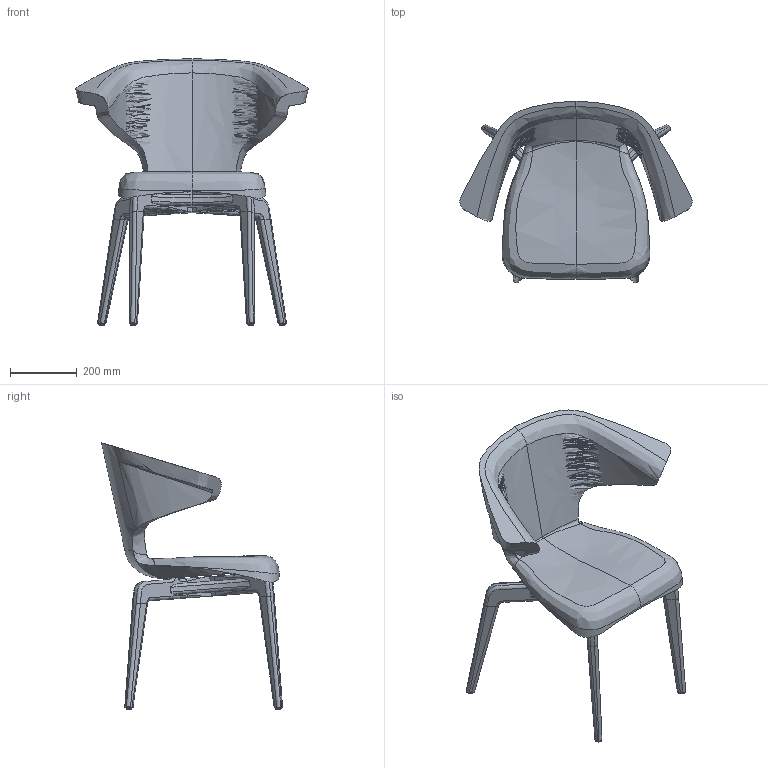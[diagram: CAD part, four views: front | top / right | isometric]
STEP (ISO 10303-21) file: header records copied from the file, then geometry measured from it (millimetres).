
FILE_DESCRIPTION(/* description */ (''),/* implementation_level */ '2;1');
FILE_NAME(/* name */ 'SH_Munich-Armchair_3D_JS_20231016',/* time_stamp */ '2023-10-16T16:06:41+02:00',/* author */ (''),/* organization */ (''),/* preprocessor_version */ 'ST-DEVELOPER v16.5',/* originating_system */ 'Rhino 7.33',/* authorisation */ '');
FILE_SCHEMA (('CONFIG_CONTROL_DESIGN'));
Length unit declared in the file: millimetre
Products named in the file (1): Document
Bounding box: 697.95 x 543.6 x 799.95 mm (x, y, z)
Surface area: 1308108.4 mm2 (no closed solid volume)
Topology: 0 solids, 2 shells, 267 faces, 727 edges, 436 vertices
Faces by surface type: bspline 133, plane 70, cylinder 64
Entity records: 21030 total; most frequent: CARTESIAN_POINT 16862, ORIENTED_EDGE 1386, EDGE_CURVE 711, VERTEX_POINT 436, B_SPLINE_CURVE_WITH_KNOTS 293, EDGE_LOOP 275, ADVANCED_FACE 267, FACE_OUTER_BOUND 267
